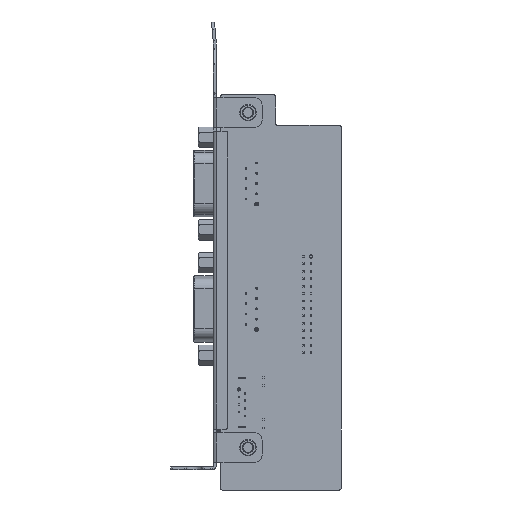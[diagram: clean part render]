
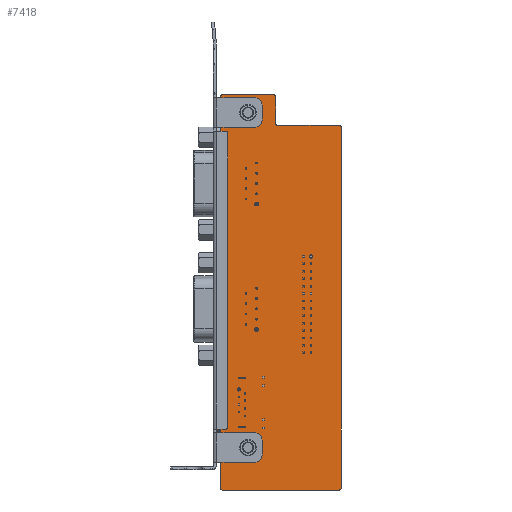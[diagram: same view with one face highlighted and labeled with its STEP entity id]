
A CAD part, front view. The second image highlights one B-rep face of the part: STEP entity #7418.
In plain terms, the highlighted planar face has unit normal (0, -1, 0) as drawn and (-1, 0, 0) by its records, which use the part's own axes.
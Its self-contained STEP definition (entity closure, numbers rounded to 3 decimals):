
#6715=CARTESIAN_POINT('',(0.,76.325,46.28));
#6716=DIRECTION('',(-1.,0.,0.));
#6717=DIRECTION('',(0.,-1.,0.));
#6718=AXIS2_PLACEMENT_3D('',#6715,#6716,#6717);
#6723=CARTESIAN_POINT('',(0.,76.325,46.28));
#6724=DIRECTION('',(-1.,0.,0.));
#6725=DIRECTION('',(0.,1.,0.));
#6726=AXIS2_PLACEMENT_3D('',#6723,#6724,#6725);
#6731=CARTESIAN_POINT('',(0.,76.325,-44.12));
#6732=DIRECTION('',(-1.,0.,0.));
#6733=DIRECTION('',(0.,-1.,0.));
#6734=AXIS2_PLACEMENT_3D('',#6731,#6732,#6733);
#6739=CARTESIAN_POINT('',(0.,76.325,-44.12));
#6740=DIRECTION('',(-1.,0.,0.));
#6741=DIRECTION('',(0.,1.,0.));
#6742=AXIS2_PLACEMENT_3D('',#6739,#6740,#6741);
#6747=CARTESIAN_POINT('',(0.,51.675,42.33));
#6748=DIRECTION('',(-1.,0.,0.));
#6749=DIRECTION('',(0.,-1.,0.));
#6750=AXIS2_PLACEMENT_3D('',#6747,#6748,#6749);
#6755=DIRECTION('',(0.,0.,-1.));
#6756=VECTOR('',#6755,97.4);
#6757=CARTESIAN_POINT('',(0.,51.175,42.33));
#6758=LINE('',#6757,#6756);
#6762=CARTESIAN_POINT('',(0.,51.675,-55.07));
#6763=DIRECTION('',(-1.,0.,0.));
#6764=DIRECTION('',(0.,0.,-1.));
#6765=AXIS2_PLACEMENT_3D('',#6762,#6763,#6764);
#6770=DIRECTION('',(0.,1.,0.));
#6771=VECTOR('',#6770,31.65);
#6772=CARTESIAN_POINT('',(0.,51.675,-55.57));
#6773=LINE('',#6772,#6771);
#6777=CARTESIAN_POINT('',(0.,83.325,-55.07));
#6778=DIRECTION('',(-1.,0.,0.));
#6779=DIRECTION('',(0.,1.,0.));
#6780=AXIS2_PLACEMENT_3D('',#6777,#6778,#6779);
#6785=DIRECTION('',(0.,0.,1.));
#6786=VECTOR('',#6785,105.65);
#6787=CARTESIAN_POINT('',(0.,83.825,-55.07));
#6788=LINE('',#6787,#6786);
#6792=CARTESIAN_POINT('',(0.,83.325,50.58));
#6793=DIRECTION('',(-1.,0.,0.));
#6794=DIRECTION('',(0.,0.,1.));
#6795=AXIS2_PLACEMENT_3D('',#6792,#6793,#6794);
#6800=DIRECTION('',(0.,-1.,0.));
#6801=VECTOR('',#6800,14.);
#6802=CARTESIAN_POINT('',(0.,83.325,51.08));
#6803=LINE('',#6802,#6801);
#6807=CARTESIAN_POINT('',(0.,69.325,50.58));
#6808=DIRECTION('',(-1.,0.,0.));
#6809=DIRECTION('',(0.,-1.,0.));
#6810=AXIS2_PLACEMENT_3D('',#6807,#6808,#6809);
#6815=DIRECTION('',(0.,0.,-1.));
#6816=VECTOR('',#6815,7.25);
#6817=CARTESIAN_POINT('',(0.,68.825,50.58));
#6818=LINE('',#6817,#6816);
#6822=DIRECTION('',(0.,-1.,0.));
#6823=VECTOR('',#6822,16.65);
#6824=CARTESIAN_POINT('',(0.,68.325,42.83));
#6825=LINE('',#6824,#6823);
#6829=CARTESIAN_POINT('',(0.,74.005,21.58));
#6830=DIRECTION('',(-1.,0.,0.));
#6831=DIRECTION('',(0.,1.,0.));
#6832=AXIS2_PLACEMENT_3D('',#6829,#6830,#6831);
#6837=CARTESIAN_POINT('',(0.,74.005,21.58));
#6838=DIRECTION('',(-1.,0.,0.));
#6839=DIRECTION('',(0.,-1.,0.));
#6840=AXIS2_PLACEMENT_3D('',#6837,#6838,#6839);
#6845=CARTESIAN_POINT('',(0.,74.005,-12.23));
#6846=DIRECTION('',(-1.,0.,0.));
#6847=DIRECTION('',(0.,1.,0.));
#6848=AXIS2_PLACEMENT_3D('',#6845,#6846,#6847);
#6853=CARTESIAN_POINT('',(0.,74.005,-12.23));
#6854=DIRECTION('',(-1.,0.,0.));
#6855=DIRECTION('',(0.,-1.,0.));
#6856=AXIS2_PLACEMENT_3D('',#6853,#6854,#6855);
#6861=CARTESIAN_POINT('',(0.,78.835,-28.425));
#6862=DIRECTION('',(-1.,0.,0.));
#6863=DIRECTION('',(0.,1.,0.));
#6864=AXIS2_PLACEMENT_3D('',#6861,#6862,#6863);
#6869=CARTESIAN_POINT('',(0.,78.835,-28.425));
#6870=DIRECTION('',(-1.,0.,0.));
#6871=DIRECTION('',(0.,-1.,0.));
#6872=AXIS2_PLACEMENT_3D('',#6869,#6870,#6871);
#6877=CARTESIAN_POINT('',(0.,59.325,7.455));
#6878=DIRECTION('',(-1.,0.,0.));
#6879=DIRECTION('',(0.,1.,0.));
#6880=AXIS2_PLACEMENT_3D('',#6877,#6878,#6879);
#6885=CARTESIAN_POINT('',(0.,59.325,7.455));
#6886=DIRECTION('',(-1.,0.,0.));
#6887=DIRECTION('',(0.,-1.,0.));
#6888=AXIS2_PLACEMENT_3D('',#6885,#6886,#6887);
#7169=CARTESIAN_POINT('',(0.,68.325,43.33));
#7170=DIRECTION('',(1.,0.,0.));
#7171=DIRECTION('',(0.,0.,-1.));
#7172=AXIS2_PLACEMENT_3D('',#7169,#7170,#7171);
#7255=CARTESIAN_POINT('',(0.,74.725,46.28));
#7256=CARTESIAN_POINT('',(0.,77.925,46.28));
#7257=VERTEX_POINT('',#7255);
#7258=VERTEX_POINT('',#7256);
#7259=CARTESIAN_POINT('',(0.,74.725,-44.12));
#7260=CARTESIAN_POINT('',(0.,77.925,-44.12));
#7261=VERTEX_POINT('',#7259);
#7262=VERTEX_POINT('',#7260);
#7271=CARTESIAN_POINT('',(0.,68.325,42.83));
#7273=VERTEX_POINT('',#7271);
#7275=CARTESIAN_POINT('',(0.,68.825,43.33));
#7277=VERTEX_POINT('',#7275);
#7279=CARTESIAN_POINT('',(0.,83.325,51.08));
#7280=CARTESIAN_POINT('',(0.,83.825,50.58));
#7281=VERTEX_POINT('',#7279);
#7282=VERTEX_POINT('',#7280);
#7287=CARTESIAN_POINT('',(0.,68.825,50.58));
#7288=CARTESIAN_POINT('',(0.,69.325,51.08));
#7289=VERTEX_POINT('',#7287);
#7290=VERTEX_POINT('',#7288);
#7295=CARTESIAN_POINT('',(0.,83.825,-55.07));
#7296=VERTEX_POINT('',#7295);
#7299=CARTESIAN_POINT('',(0.,83.325,-55.57));
#7300=VERTEX_POINT('',#7299);
#7307=CARTESIAN_POINT('',(0.,51.175,42.33));
#7308=VERTEX_POINT('',#7307);
#7309=CARTESIAN_POINT('',(0.,51.675,42.83));
#7310=VERTEX_POINT('',#7309);
#7311=CARTESIAN_POINT('',(0.,51.675,-55.57));
#7312=CARTESIAN_POINT('',(0.,51.175,-55.07));
#7313=VERTEX_POINT('',#7311);
#7314=VERTEX_POINT('',#7312);
#7319=CARTESIAN_POINT('',(0.,74.505,21.58));
#7320=CARTESIAN_POINT('',(0.,73.505,21.58));
#7321=VERTEX_POINT('',#7319);
#7322=VERTEX_POINT('',#7320);
#7323=CARTESIAN_POINT('',(0.,74.505,-12.23));
#7324=CARTESIAN_POINT('',(0.,73.505,-12.23));
#7325=VERTEX_POINT('',#7323);
#7326=VERTEX_POINT('',#7324);
#7327=CARTESIAN_POINT('',(0.,79.264,-28.425));
#7328=CARTESIAN_POINT('',(0.,78.406,-28.425));
#7329=VERTEX_POINT('',#7327);
#7330=VERTEX_POINT('',#7328);
#7343=CARTESIAN_POINT('',(0.,59.825,7.455));
#7344=CARTESIAN_POINT('',(0.,58.825,7.455));
#7345=VERTEX_POINT('',#7343);
#7346=VERTEX_POINT('',#7344);
#7351=CARTESIAN_POINT('',(0.,0.,0.));
#7352=DIRECTION('',(1.,0.,0.));
#7353=DIRECTION('',(0.,-1.,0.));
#7354=AXIS2_PLACEMENT_3D('',#7351,#7352,#7353);
#7355=PLANE('',#7354);
#7357=ORIENTED_EDGE('',*,*,#7356,.F.);
#7359=ORIENTED_EDGE('',*,*,#7358,.T.);
#7361=ORIENTED_EDGE('',*,*,#7360,.F.);
#7363=ORIENTED_EDGE('',*,*,#7362,.T.);
#7365=ORIENTED_EDGE('',*,*,#7364,.F.);
#7367=ORIENTED_EDGE('',*,*,#7366,.T.);
#7369=ORIENTED_EDGE('',*,*,#7368,.F.);
#7371=ORIENTED_EDGE('',*,*,#7370,.T.);
#7373=ORIENTED_EDGE('',*,*,#7372,.F.);
#7375=ORIENTED_EDGE('',*,*,#7374,.T.);
#7377=ORIENTED_EDGE('',*,*,#7376,.F.);
#7379=ORIENTED_EDGE('',*,*,#7378,.T.);
#7380=EDGE_LOOP('',(#7357,#7359,#7361,#7363,#7365,#7367,#7369,#7371,#7373,#7375,
#7377,#7379));
#7381=FACE_OUTER_BOUND('',#7380,.F.);
#7383=ORIENTED_EDGE('',*,*,#7382,.T.);
#7385=ORIENTED_EDGE('',*,*,#7384,.T.);
#7386=EDGE_LOOP('',(#7383,#7385));
#7387=FACE_BOUND('',#7386,.F.);
#7389=ORIENTED_EDGE('',*,*,#7388,.T.);
#7391=ORIENTED_EDGE('',*,*,#7390,.T.);
#7392=EDGE_LOOP('',(#7389,#7391));
#7393=FACE_BOUND('',#7392,.F.);
#7395=ORIENTED_EDGE('',*,*,#7394,.T.);
#7397=ORIENTED_EDGE('',*,*,#7396,.T.);
#7398=EDGE_LOOP('',(#7395,#7397));
#7399=FACE_BOUND('',#7398,.F.);
#7401=ORIENTED_EDGE('',*,*,#7400,.T.);
#7403=ORIENTED_EDGE('',*,*,#7402,.T.);
#7404=EDGE_LOOP('',(#7401,#7403));
#7405=FACE_BOUND('',#7404,.F.);
#7407=ORIENTED_EDGE('',*,*,#7406,.T.);
#7409=ORIENTED_EDGE('',*,*,#7408,.T.);
#7410=EDGE_LOOP('',(#7407,#7409));
#7411=FACE_BOUND('',#7410,.F.);
#7413=ORIENTED_EDGE('',*,*,#7412,.T.);
#7415=ORIENTED_EDGE('',*,*,#7414,.T.);
#7416=EDGE_LOOP('',(#7413,#7415));
#7417=FACE_BOUND('',#7416,.F.);
#6719=CIRCLE('',#6718,1.6);
#6727=CIRCLE('',#6726,1.6);
#6735=CIRCLE('',#6734,1.6);
#6743=CIRCLE('',#6742,1.6);
#6751=CIRCLE('',#6750,0.5);
#6766=CIRCLE('',#6765,0.5);
#6781=CIRCLE('',#6780,0.5);
#6796=CIRCLE('',#6795,0.5);
#6811=CIRCLE('',#6810,0.5);
#6833=CIRCLE('',#6832,0.5);
#6841=CIRCLE('',#6840,0.5);
#6849=CIRCLE('',#6848,0.5);
#6857=CIRCLE('',#6856,0.5);
#6865=CIRCLE('',#6864,0.429);
#6873=CIRCLE('',#6872,0.429);
#6881=CIRCLE('',#6880,0.5);
#6889=CIRCLE('',#6888,0.5);
#7173=CIRCLE('',#7172,0.5);
#7356=EDGE_CURVE('',#7308,#7310,#6751,.T.);
#7358=EDGE_CURVE('',#7308,#7314,#6758,.T.);
#7360=EDGE_CURVE('',#7313,#7314,#6766,.T.);
#7362=EDGE_CURVE('',#7313,#7300,#6773,.T.);
#7364=EDGE_CURVE('',#7296,#7300,#6781,.T.);
#7366=EDGE_CURVE('',#7296,#7282,#6788,.T.);
#7368=EDGE_CURVE('',#7281,#7282,#6796,.T.);
#7370=EDGE_CURVE('',#7281,#7290,#6803,.T.);
#7372=EDGE_CURVE('',#7289,#7290,#6811,.T.);
#7374=EDGE_CURVE('',#7289,#7277,#6818,.T.);
#7376=EDGE_CURVE('',#7273,#7277,#7173,.T.);
#7378=EDGE_CURVE('',#7273,#7310,#6825,.T.);
#7382=EDGE_CURVE('',#7261,#7262,#6735,.T.);
#7384=EDGE_CURVE('',#7262,#7261,#6743,.T.);
#7388=EDGE_CURVE('',#7257,#7258,#6719,.T.);
#7390=EDGE_CURVE('',#7258,#7257,#6727,.T.);
#7394=EDGE_CURVE('',#7321,#7322,#6833,.T.);
#7396=EDGE_CURVE('',#7322,#7321,#6841,.T.);
#7400=EDGE_CURVE('',#7325,#7326,#6849,.T.);
#7402=EDGE_CURVE('',#7326,#7325,#6857,.T.);
#7406=EDGE_CURVE('',#7329,#7330,#6865,.T.);
#7408=EDGE_CURVE('',#7330,#7329,#6873,.T.);
#7412=EDGE_CURVE('',#7345,#7346,#6881,.T.);
#7414=EDGE_CURVE('',#7346,#7345,#6889,.T.);
#7418=ADVANCED_FACE('',(#7381,#7387,#7393,#7399,#7405,#7411,#7417),#7355,.F.);
